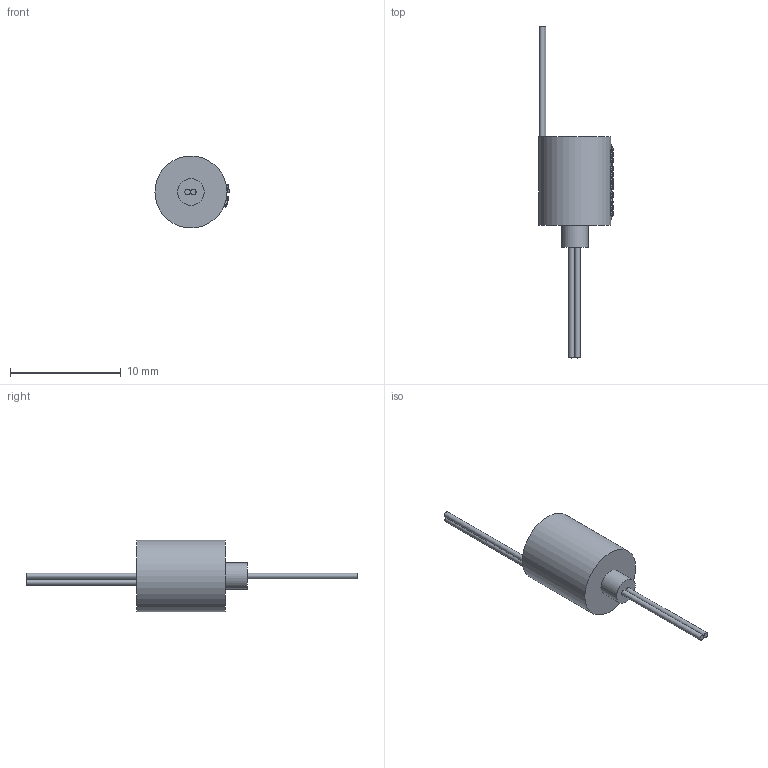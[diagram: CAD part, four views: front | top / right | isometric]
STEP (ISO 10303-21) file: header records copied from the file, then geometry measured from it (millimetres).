
FILE_DESCRIPTION(/* description */ (''),/* implementation_level */ '2;1');
FILE_NAME(/* name */ 'YM07-02.stp',/* time_stamp */ '2025-09-05T09:23:48+08:00',/* author */ (''),/* organization */ (''),/* preprocessor_version */ 'ST-DEVELOPER v16.7',/* originating_system */ 'SIEMENS PLM Software NX 12.0',/* authorisation */ '');
FILE_SCHEMA (('AUTOMOTIVE_DESIGN { 1 0 10303 214 3 1 1 1 }'));
Length unit declared in the file: millimetre
Products named in the file (1): Admi30D0F0663ago
Bounding box: 6.7 x 30 x 6.5 mm (x, y, z)
Volume: 282.9 mm3; surface area: 324.8 mm2
Topology: 1 solids, 1 shells, 694 faces, 1959 edges, 1306 vertices
Faces by surface type: extrusion 450, plane 193, bspline 29, cylinder 22
Full cylindrical faces by diameter (mm): 0.5 x4, 2.4 x1, 6.5 x1
Entity records: 30088 total; most frequent: CARTESIAN_POINT 15552, ORIENTED_EDGE 3840, B_SPLINE_CURVE_WITH_KNOTS 2116, EDGE_CURVE 1920, VERTEX_POINT 1284, DIRECTION 1278, EDGE_LOOP 750, ADVANCED_FACE 694
